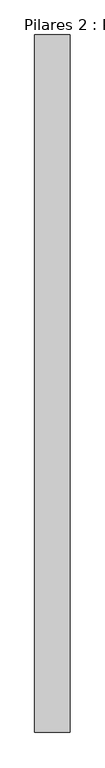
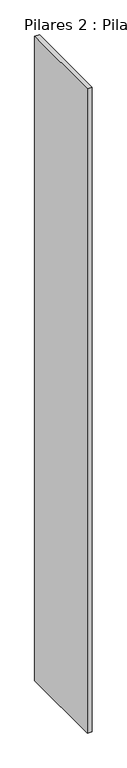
"""IFC4 building model written with IfcOpenShell, lengths in millimetres: column geometry, Pilares 2 : Pilares 1."""

from ifc_helpers import new_model, si_unit, frame, origin, place, context, project, spatial, polyline, outline, extrude, source, transform, mapped, element, save


def pilares_2_pilares_1_2a632236(model_context):
    return source(origin(), model_context, "Body", "SweptSolid", [
        extrude(outline(polyline([(40424.5059119, 28504.010184), (40424.5059119, 25154.0112971), (40254.5059119, 25154.0112971), (40254.5059119, 28504.010184), (40424.5059119, 28504.010184)])), frame((0.0, 0.0, -7250.0), z_axis=(0.0, 0.0, 1.0), x_axis=(1.0, 0.0, 0.0)), (0.0, 0.0, 1.0), 25050.0),
    ])


if __name__ == "__main__":
    model = new_model("IFC4")
    model_context = context("Model", 3, world=origin())
    ifc_project = project(units=[si_unit("LENGTHUNIT", "METRE", prefix="MILLI")], contexts=[model_context])
    site = spatial("IfcSite", under=ifc_project)
    building = spatial("IfcBuilding", under=site)
    placement = place(None, origin())
    pilares_2_pilares_1_shape = pilares_2_pilares_1_2a632236(model_context)
    element("IfcColumn", 1, ObjectType="Pilares 2 : Pilares 1", at=placement, inside=building, context=model_context, shape_type="MappedRepresentation", body=[
        mapped(pilares_2_pilares_1_shape, transform((0.0, 0.0, 0.0), x_axis=(1.0, 0.0, 0.0), y_axis=(0.0, 1.0, 0.0), z_axis=(0.0, 0.0, 1.0))),
    ])
    save(model, "model.ifc")
